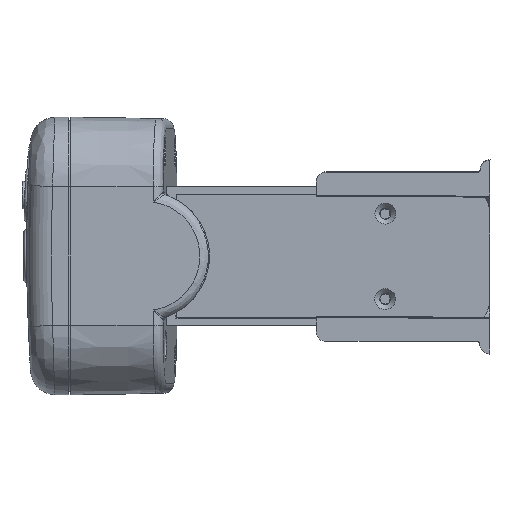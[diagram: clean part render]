
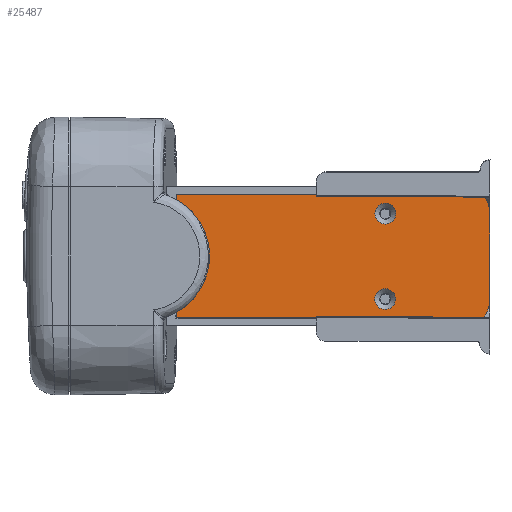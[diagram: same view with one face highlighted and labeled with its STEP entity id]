
A CAD part, left-side view. The second image highlights one B-rep face of the part: STEP entity #25487.
In plain terms, the highlighted planar face has unit normal (-1, 0, 0) as drawn and (0, -1, 0) by its records, which use the part's own axes.
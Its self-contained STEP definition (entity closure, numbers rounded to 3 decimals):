
#25287=CARTESIAN_POINT('',(10.7,0.0,-42.0));
#25288=VERTEX_POINT('',#25287);
#25289=CARTESIAN_POINT('',(8.6,0.0,-42.0));
#25290=DIRECTION('',(0.0,1.0,0.0));
#25291=DIRECTION('',(-1.0,0.0,0.0));
#25292=AXIS2_PLACEMENT_3D('',#25289,#25290,#25291);
#25293=CIRCLE('',#25292,2.1);
#25294=EDGE_CURVE('',#25288,#25288,#25293,.T.);
#25307=CARTESIAN_POINT('',(-6.5,0.0,-42.0));
#25308=VERTEX_POINT('',#25307);
#25309=CARTESIAN_POINT('',(-8.6,0.0,-42.0));
#25310=DIRECTION('',(0.0,1.0,0.0));
#25311=DIRECTION('',(-1.0,0.0,0.0));
#25312=AXIS2_PLACEMENT_3D('',#25309,#25310,#25311);
#25313=CIRCLE('',#25312,2.1);
#25314=EDGE_CURVE('',#25308,#25308,#25313,.T.);
#25335=CARTESIAN_POINT('',(-9.,0.0,-63.));
#25336=VERTEX_POINT('',#25335);
#25343=CARTESIAN_POINT('',(-14.,0.0,-58.));
#25344=VERTEX_POINT('',#25343);
#25345=CARTESIAN_POINT('',(-9.,0.0,-58.));
#25346=DIRECTION('',(0.0,1.0,0.0));
#25347=DIRECTION('',(-0.707,0.0,-0.707));
#25348=AXIS2_PLACEMENT_3D('',#25345,#25346,#25347);
#25349=CIRCLE('',#25348,5.);
#25350=EDGE_CURVE('',#25336,#25344,#25349,.T.);
#25367=CARTESIAN_POINT('',(-14.,0.0,-48.));
#25368=VERTEX_POINT('',#25367);
#25369=CARTESIAN_POINT('',(-14.,0.0,-58.));
#25370=DIRECTION('',(0.0,0.0,1.0));
#25371=VECTOR('',#25370,10.);
#25372=LINE('',#25369,#25371);
#25373=EDGE_CURVE('',#25344,#25368,#25372,.T.);
#25392=CARTESIAN_POINT('',(-12.4,0.0,0.0));
#25393=DIRECTION('',(0.0,-1.0,0.0));
#25394=DIRECTION('',(0.0,0.0,-1.0));
#25395=AXIS2_PLACEMENT_3D('',#25392,#25393,#25394);
#25396=PLANE('',#25395);
#25397=ORIENTED_EDGE('',*,*,#25350,.F.);
#25398=CARTESIAN_POINT('',(9.0,0.0,-63.));
#25399=VERTEX_POINT('',#25398);
#25400=CARTESIAN_POINT('',(9.0,0.0,-63.));
#25401=DIRECTION('',(-1.0,0.0,0.0));
#25402=VECTOR('',#25401,18.);
#25403=LINE('',#25400,#25402);
#25404=EDGE_CURVE('',#25399,#25336,#25403,.T.);
#25405=ORIENTED_EDGE('',*,*,#25404,.F.);
#25406=CARTESIAN_POINT('',(14.,0.0,-58.));
#25407=VERTEX_POINT('',#25406);
#25408=CARTESIAN_POINT('',(9.0,0.0,-58.));
#25409=DIRECTION('',(0.0,1.0,0.0));
#25410=DIRECTION('',(0.707,0.0,-0.707));
#25411=AXIS2_PLACEMENT_3D('',#25408,#25409,#25410);
#25412=CIRCLE('',#25411,5.);
#25413=EDGE_CURVE('',#25407,#25399,#25412,.T.);
#25414=ORIENTED_EDGE('',*,*,#25413,.F.);
#25415=CARTESIAN_POINT('',(14.,0.0,-48.));
#25416=VERTEX_POINT('',#25415);
#25417=CARTESIAN_POINT('',(14.,0.0,-48.));
#25418=DIRECTION('',(0.0,0.0,-1.0));
#25419=VECTOR('',#25418,10.);
#25420=LINE('',#25417,#25419);
#25421=EDGE_CURVE('',#25416,#25407,#25420,.T.);
#25422=ORIENTED_EDGE('',*,*,#25421,.F.);
#25423=CARTESIAN_POINT('',(12.4,0.0,-48.));
#25424=VERTEX_POINT('',#25423);
#25425=CARTESIAN_POINT('',(12.4,0.0,-48.));
#25426=DIRECTION('',(1.0,0.0,0.0));
#25427=VECTOR('',#25426,1.6);
#25428=LINE('',#25425,#25427);
#25429=EDGE_CURVE('',#25424,#25416,#25428,.T.);
#25430=ORIENTED_EDGE('',*,*,#25429,.F.);
#25431=CARTESIAN_POINT('',(12.4,0.0,0.0));
#25432=VERTEX_POINT('',#25431);
#25433=CARTESIAN_POINT('',(12.4,0.0,0.0));
#25434=DIRECTION('',(0.0,0.0,-1.0));
#25435=VECTOR('',#25434,48.);
#25436=LINE('',#25433,#25435);
#25437=EDGE_CURVE('',#25432,#25424,#25436,.T.);
#25438=ORIENTED_EDGE('',*,*,#25437,.F.);
#25439=CARTESIAN_POINT('',(11.315,0.0,0.0));
#25440=VERTEX_POINT('',#25439);
#25441=CARTESIAN_POINT('',(11.315,0.0,0.0));
#25442=DIRECTION('',(1.0,0.0,0.0));
#25443=VECTOR('',#25442,1.085);
#25444=LINE('',#25441,#25443);
#25445=EDGE_CURVE('',#25440,#25432,#25444,.T.);
#25446=ORIENTED_EDGE('',*,*,#25445,.F.);
#25447=CARTESIAN_POINT('',(-11.315,0.0,0.0));
#25448=VERTEX_POINT('',#25447);
#25449=CARTESIAN_POINT('',(0.0,0.0,6.4));
#25450=DIRECTION('',(0.0,1.0,0.0));
#25451=DIRECTION('',(-1.0,0.0,0.0));
#25452=AXIS2_PLACEMENT_3D('',#25449,#25450,#25451);
#25453=CIRCLE('',#25452,13.);
#25454=EDGE_CURVE('',#25440,#25448,#25453,.T.);
#25455=ORIENTED_EDGE('',*,*,#25454,.T.);
#25456=CARTESIAN_POINT('',(-12.4,0.0,0.0));
#25457=VERTEX_POINT('',#25456);
#25458=CARTESIAN_POINT('',(-12.4,0.0,0.0));
#25459=DIRECTION('',(1.0,0.0,0.0));
#25460=VECTOR('',#25459,1.085);
#25461=LINE('',#25458,#25460);
#25462=EDGE_CURVE('',#25457,#25448,#25461,.T.);
#25463=ORIENTED_EDGE('',*,*,#25462,.F.);
#25464=CARTESIAN_POINT('',(-12.4,0.0,-48.));
#25465=VERTEX_POINT('',#25464);
#25466=CARTESIAN_POINT('',(-12.4,0.0,0.0));
#25467=DIRECTION('',(0.0,0.0,-1.0));
#25468=VECTOR('',#25467,48.);
#25469=LINE('',#25466,#25468);
#25470=EDGE_CURVE('',#25457,#25465,#25469,.T.);
#25471=ORIENTED_EDGE('',*,*,#25470,.T.);
#25472=CARTESIAN_POINT('',(-14.,0.0,-48.));
#25473=DIRECTION('',(1.0,0.0,0.0));
#25474=VECTOR('',#25473,1.6);
#25475=LINE('',#25472,#25474);
#25476=EDGE_CURVE('',#25368,#25465,#25475,.T.);
#25477=ORIENTED_EDGE('',*,*,#25476,.F.);
#25478=ORIENTED_EDGE('',*,*,#25373,.F.);
#25479=EDGE_LOOP('',(#25397,#25405,#25414,#25422,#25430,#25438,#25446,#25455,#25463,#25471,#25477,#25478));
#25480=FACE_OUTER_BOUND('',#25479,.T.);
#25481=ORIENTED_EDGE('',*,*,#25294,.T.);
#25482=EDGE_LOOP('',(#25481));
#25483=FACE_BOUND('',#25482,.T.);
#25484=ORIENTED_EDGE('',*,*,#25314,.T.);
#25485=EDGE_LOOP('',(#25484));
#25486=FACE_BOUND('',#25485,.T.);
#25487=ADVANCED_FACE('',(#25480,#25483,#25486),#25396,.T.);
